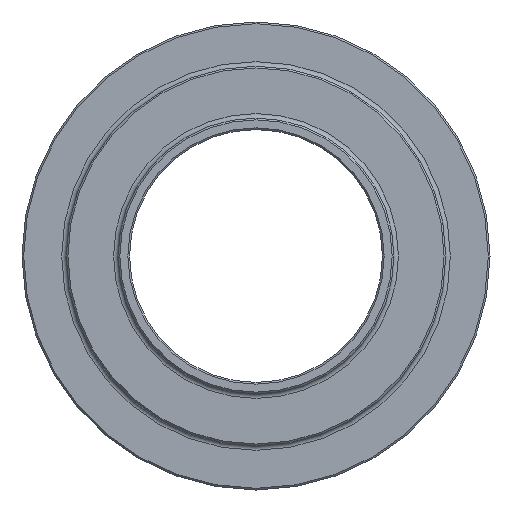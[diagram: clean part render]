
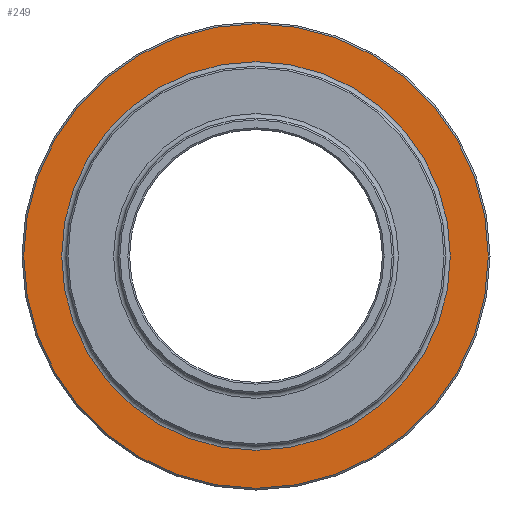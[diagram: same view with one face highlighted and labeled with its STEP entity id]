
A CAD part, left-side view. The second image highlights one B-rep face of the part: STEP entity #249.
In plain terms, the highlighted planar face has unit normal (-1, 0, 0).
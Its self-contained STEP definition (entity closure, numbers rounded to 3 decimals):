
#22=FACE_BOUND('',#76,.T.);
#26=PLANE('',#298);
#58=FACE_OUTER_BOUND('',#75,.T.);
#75=EDGE_LOOP('',(#196));
#76=EDGE_LOOP('',(#197));
#98=CIRCLE('',#293,34.05);
#102=CIRCLE('',#299,40.7);
#122=VERTEX_POINT('',#437);
#125=VERTEX_POINT('',#448);
#147=EDGE_CURVE('',#122,#122,#98,.T.);
#152=EDGE_CURVE('',#125,#125,#102,.T.);
#196=ORIENTED_EDGE('',*,*,#152,.F.);
#197=ORIENTED_EDGE('',*,*,#147,.F.);
#249=ADVANCED_FACE('',(#58,#22),#26,.T.);
#293=AXIS2_PLACEMENT_3D('',#439,#350,#351);
#298=AXIS2_PLACEMENT_3D('',#447,#361,#362);
#299=AXIS2_PLACEMENT_3D('',#449,#363,#364);
#350=DIRECTION('center_axis',(-1.,0.,0.));
#351=DIRECTION('ref_axis',(0.,-1.,0.));
#361=DIRECTION('center_axis',(-1.,0.,0.));
#362=DIRECTION('ref_axis',(0.,0.,1.));
#363=DIRECTION('center_axis',(1.,0.,0.));
#364=DIRECTION('ref_axis',(0.,-1.,0.));
#437=CARTESIAN_POINT('',(-3.5,0.,34.05));
#439=CARTESIAN_POINT('Origin',(-3.5,0.,0.));
#447=CARTESIAN_POINT('Origin',(-3.5,41.,0.));
#448=CARTESIAN_POINT('',(-3.5,40.7,0.));
#449=CARTESIAN_POINT('Origin',(-3.5,0.,0.));
